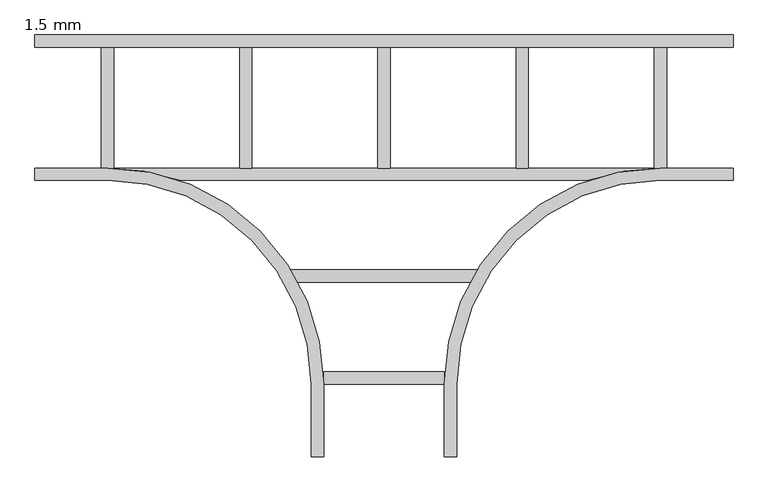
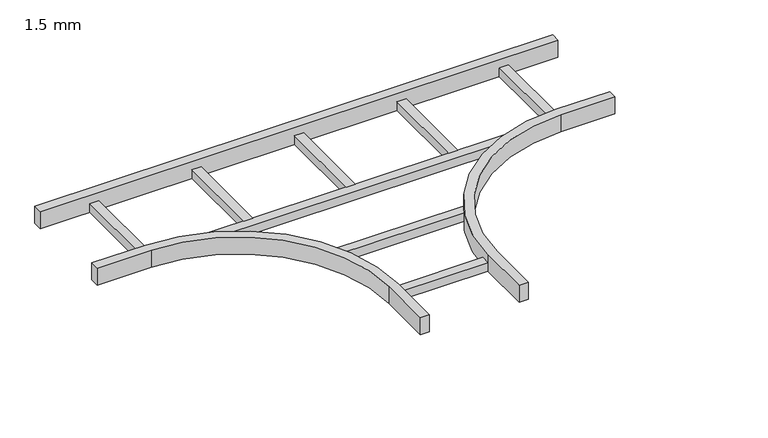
"""IFC4 building model written with IfcOpenShell, lengths in millimetres: cable carrier fitting geometry, BAKS_Trójnik_drabiny : 1.5 mm."""

from ifc_helpers import new_model, si_unit, frame, origin, place, context, project, spatial, polyline, circle_curve, outline, extrude, faceted_brep, source, transform, mapped, element, save
from ifc_brep_helpers import plane_surface, cylinder_surface, revolved_surface, advanced_brep


def cable_carrier_fitting_1_5_mm_6c32c4d6(model_context):
    return source(origin(), model_context, "Body", "SolidModel", [
        extrude(outline(polyline([(191.8889052, -334.6), (191.8889052, -360.0), (-191.8889052, -360.0), (-191.8889052, -334.6), (191.8889052, -334.6)])), frame((0.0, 0.0, -25.0), z_axis=(0.0, 0.0, 1.0), x_axis=(1.0, 0.0, 0.0)), (0.0, 0.0, 1.0), 25.4),
        extrude(outline(polyline([(124.6, -544.6), (124.6, -570.0), (-124.6, -570.0), (-124.6, -544.6), (124.6, -544.6)])), frame((0.0, 0.0, -25.0), z_axis=(0.0, 0.0, 1.0), x_axis=(1.0, 0.0, 0.0)), (0.0, 0.0, 1.0), 25.4),
        extrude(outline(polyline([(582.7, 124.6), (582.7, -124.6), (557.3, -124.6), (557.3, 124.6), (582.7, 124.6)])), frame((0.0, 0.0, -25.0), z_axis=(0.0, 0.0, 1.0), x_axis=(1.0, 0.0, 0.0)), (0.0, 0.0, 1.0), 25.4),
        extrude(outline(polyline([(297.7, 124.6), (297.7, -124.6), (272.3, -124.6), (272.3, 124.6), (297.7, 124.6)])), frame((0.0, 0.0, -25.0), z_axis=(0.0, 0.0, 1.0), x_axis=(1.0, 0.0, 0.0)), (0.0, 0.0, 1.0), 25.4),
        extrude(outline(polyline([(12.7, 124.6), (12.7, -124.6), (-12.7, -124.6), (-12.7, 124.6), (12.7, 124.6)])), frame((0.0, 0.0, -25.0), z_axis=(0.0, 0.0, 1.0), x_axis=(1.0, 0.0, 0.0)), (0.0, 0.0, 1.0), 25.4),
        extrude(outline(polyline([(-272.3, 124.6), (-272.3, -124.6), (-297.7, -124.6), (-297.7, 124.6), (-272.3, 124.6)])), frame((0.0, 0.0, -25.0), z_axis=(0.0, 0.0, 1.0), x_axis=(1.0, 0.0, 0.0)), (0.0, 0.0, 1.0), 25.4),
        extrude(outline(polyline([(-557.3, 124.6), (-557.3, -124.6), (-582.7, -124.6), (-582.7, 124.6), (-557.3, 124.6)])), frame((0.0, 0.0, -25.0), z_axis=(0.0, 0.0, 1.0), x_axis=(1.0, 0.0, 0.0)), (0.0, 0.0, 1.0), 25.4),
        advanced_brep(
        [(-150.0, -570.0, 25.0), (-150.0, -720.0, 25.0), (-124.6, -720.0, 25.0), (-124.6, -570.0, 25.0), (-570.0, -124.6, 25.0), (-720.0, -124.6, 25.0), (-720.0, -150.0, 25.0), (-570.0, -150.0, 25.0), (150.0, -570.0, 25.0), (570.0, -150.0, 25.0), (720.0, -150.0, 25.0), (720.0, -124.6, 25.0), (570.0, -124.6, 25.0), (124.6, -570.0, 25.0), (124.6, -720.0, 25.0), (150.0, -720.0, 25.0), (-150.0, -570.0, -25.0), (-570.0, -150.0, -25.0), (-720.0, -150.0, -25.0), (-720.0, -124.6, -25.0), (720.0, -124.6, -25.0), (720.0, -150.0, -25.0), (570.0, -150.0, -25.0), (150.0, -570.0, -25.0), (150.0, -720.0, -25.0), (124.6, -720.0, -25.0), (124.6, -570.0, -25.0), (421.7395535, -150.0, -25.0), (-421.7395535, -150.0, -25.0), (-124.6, -570.0, -25.0), (-124.6, -720.0, -25.0), (-150.0, -720.0, -25.0), (-421.7395535, -150.0, 0.4), (-570.0, -124.6, 0.4), (570.0, -124.6, 0.4), (-570.0, -150.0, 0.4), (570.0, -150.0, 0.4), (421.7395535, -150.0, 0.4)],
        [
            (0, 1),
            (1, 2),
            (2, 3),
            (3, 4, circle_curve(frame((-570.0, -570.0, 25.0), z_axis=(0.0, 0.0, 1.0), x_axis=(1.0, 0.0, 0.0)), 445.4)),
            (4, 5),
            (5, 6),
            (6, 7),
            (7, 0, circle_curve(frame((-570.0, -570.0, 25.0), z_axis=(0.0, 0.0, -1.0), x_axis=(1.0, 0.0, 0.0)), 420.0)),
            (8, 9, circle_curve(frame((570.0, -570.0, 25.0), z_axis=(0.0, 0.0, -1.0), x_axis=(1.0, 0.0, 0.0)), 420.0)),
            (9, 10),
            (10, 11),
            (11, 12),
            (12, 13, circle_curve(frame((570.0, -570.0, 25.0), z_axis=(0.0, 0.0, 1.0), x_axis=(1.0, 0.0, 0.0)), 445.4)),
            (13, 14),
            (14, 15),
            (15, 8),
            (16, 17, circle_curve(frame((-570.0, -570.0, -25.0), z_axis=(0.0, 0.0, 1.0), x_axis=(1.0, 0.0, 0.0)), 420.0)),
            (17, 18),
            (18, 19),
            (19, 20),
            (20, 21),
            (21, 22),
            (22, 23, circle_curve(frame((570.0, -570.0, -25.0), z_axis=(0.0, 0.0, 1.0), x_axis=(1.0, 0.0, 0.0)), 420.0)),
            (23, 24),
            (24, 25),
            (25, 26),
            (26, 27, circle_curve(frame((570.0, -570.0, -25.0), z_axis=(0.0, 0.0, -1.0), x_axis=(1.0, 0.0, 0.0)), 445.4)),
            (27, 28),
            (28, 29, circle_curve(frame((-570.0, -570.0, -25.0), z_axis=(0.0, 0.0, -1.0), x_axis=(1.0, 0.0, 0.0)), 445.4)),
            (29, 30),
            (30, 31),
            (31, 16),
            (0, 16),
            (31, 1),
            (30, 2),
            (29, 3),
            (28, 32),
            (32, 33, circle_curve(frame((-570.0, -570.0, 0.4), z_axis=(0.0, 0.0, 1.0), x_axis=(1.0, 0.0, 0.0)), 445.4)),
            (33, 4),
            (33, 34),
            (34, 12),
            (11, 20),
            (19, 5),
            (18, 6),
            (17, 35),
            (35, 7),
            (8, 23),
            (22, 36),
            (36, 9),
            (21, 10),
            (34, 37, circle_curve(frame((570.0, -570.0, 0.4), z_axis=(0.0, 0.0, 1.0), x_axis=(1.0, 0.0, 0.0)), 445.4)),
            (37, 27),
            (26, 13),
            (25, 14),
            (24, 15),
            (32, 37),
        ],
        [
            plane_surface(frame((-150.0, -570.0, 25.0), z_axis=(0.0, 0.0, 1.0), x_axis=(0.0, -1.0, 0.0))),
            plane_surface(frame((-150.0, -570.0, -25.0), z_axis=(0.0, 0.0, -1.0), x_axis=(0.0, 1.0, 0.0))),
            plane_surface(frame((-150.0, -570.0, 25.0), z_axis=(-1.0, 0.0, 0.0), x_axis=(0.0, 0.0, -1.0))),
            plane_surface(frame((-150.0, -720.0, 25.0), z_axis=(0.0, -1.0, 0.0), x_axis=(0.0, 0.0, -1.0))),
            plane_surface(frame((-124.6, -720.0, 25.0), z_axis=(1.0, 0.0, 0.0), x_axis=(0.0, 0.0, -1.0))),
            cylinder_surface(frame((-570.0, -570.0, -25.0), z_axis=(0.0, 0.0, 1.0), x_axis=(1.0, 0.0, 0.0)), 445.4),
            plane_surface(frame((-570.0, -124.6, 25.0), z_axis=(0.0, 1.0, 0.0), x_axis=(0.0, 0.0, -1.0))),
            plane_surface(frame((-720.0, -124.6, 25.0), z_axis=(-1.0, 0.0, 0.0), x_axis=(0.0, 0.0, -1.0))),
            plane_surface(frame((-720.0, -150.0, 25.0), z_axis=(0.0, -1.0, 0.0), x_axis=(0.0, 0.0, -1.0))),
            revolved_surface(polyline([(-150.0, -570.0, -25.0), (-150.0, -570.0, 25.0)]), (-570.0, -570.0, -25.0), (0.0, 0.0, -1.0)),
            revolved_surface(polyline([(990.0, -570.0, -25.0), (990.0, -570.0, 25.0)]), (570.0, -570.0, 0.0), (0.0, 0.0, -1.0)),
            plane_surface(frame((570.0, -150.0, 25.0), z_axis=(0.0, -1.0, 0.0), x_axis=(0.0, 0.0, -1.0))),
            plane_surface(frame((720.0, -150.0, 25.0), z_axis=(1.0, 0.0, 0.0), x_axis=(0.0, 0.0, -1.0))),
            cylinder_surface(frame((570.0, -570.0, 0.0), z_axis=(0.0, 0.0, 1.0), x_axis=(1.0, 0.0, 0.0)), 445.4),
            plane_surface(frame((124.6, -570.0, 25.0), z_axis=(-1.0, 0.0, 0.0), x_axis=(0.0, 0.0, -1.0))),
            plane_surface(frame((124.6, -720.0, 25.0), z_axis=(0.0, -1.0, 0.0), x_axis=(0.0, 0.0, -1.0))),
            plane_surface(frame((150.0, -720.0, 25.0), z_axis=(1.0, 0.0, 0.0), x_axis=(0.0, 0.0, -1.0))),
            plane_surface(frame((-570.0, -124.6, 0.4), z_axis=(0.0, 0.0, 1.0), x_axis=(-1.0, 0.0, 0.0))),
            plane_surface(frame((-570.0, -150.0, 0.4), z_axis=(0.0, -1.0, 0.0), x_axis=(0.0, 0.0, -1.0))),
        ],
        [
            (0, [[1, 2, 3, 4, 5, 6, 7, 8]]),
            (0, [[9, 10, 11, 12, 13, 14, 15, 16]]),
            (1, [[17, 18, 19, 20, 21, 22, 23, 24, 25, 26, 27, 28, 29, 30, 31, 32]]),
            (2, [[-1, 33, -32, 34]]),
            (3, [[-2, -34, -31, 35]]),
            (4, [[-3, -35, -30, 36]]),
            (5, [[-4, -36, -29, 37, 38, 39]]),
            (6, [[-5, -39, 40, 41, -12, 42, -20, 43]]),
            (7, [[-6, -43, -19, 44]]),
            (8, [[-7, -44, -18, 45, 46]]),
            (9, [[-8, -46, -45, -17, -33]]),
            (10, [[-9, 47, -23, 48, 49]]),
            (11, [[-10, -49, -48, -22, 50]]),
            (12, [[-11, -50, -21, -42]]),
            (13, [[-13, -41, 51, 52, -27, 53]]),
            (14, [[-14, -53, -26, 54]]),
            (15, [[-15, -54, -25, 55]]),
            (16, [[-16, -55, -24, -47]]),
            (17, [[-40, -38, 56, -51]]),
            (18, [[-28, -52, -56, -37]]),
        ],
    ),
        faceted_brep([(720.0, 150.0, 25.0), (-720.0, 150.0, 25.0), (-720.0, 124.6, 25.0), (720.0, 124.6, 25.0), (720.0, 150.0, -25.0), (720.0, 124.6, -25.0), (-720.0, 124.6, -25.0), (-720.0, 150.0, -25.0)], [[[0, 1, 2, 3]], [[4, 5, 6, 7]], [[1, 0, 4, 7]], [[2, 1, 7, 6]], [[3, 2, 6, 5]], [[0, 3, 5, 4]]]),
    ])


if __name__ == "__main__":
    model = new_model("IFC4")
    model_context = context("Model", 3, world=origin())
    ifc_project = project(units=[si_unit("LENGTHUNIT", "METRE", prefix="MILLI")], contexts=[model_context])
    site = spatial("IfcSite", under=ifc_project)
    building = spatial("IfcBuilding", under=site)
    placement = place(None, origin())
    cable_carrier_fitting_1_5_mm_shape = cable_carrier_fitting_1_5_mm_6c32c4d6(model_context)
    element("IfcCableCarrierFitting", 1, ObjectType="BAKS_Trójnik_drabiny : 1.5 mm", at=placement, inside=building, context=model_context, shape_type="MappedRepresentation", body=[
        mapped(cable_carrier_fitting_1_5_mm_shape, transform((0.0, 0.0, 0.0), x_axis=(1.0, 0.0, 0.0), y_axis=(0.0, 1.0, 0.0), z_axis=(0.0, 0.0, 1.0))),
    ])
    save(model, "model.ifc")
